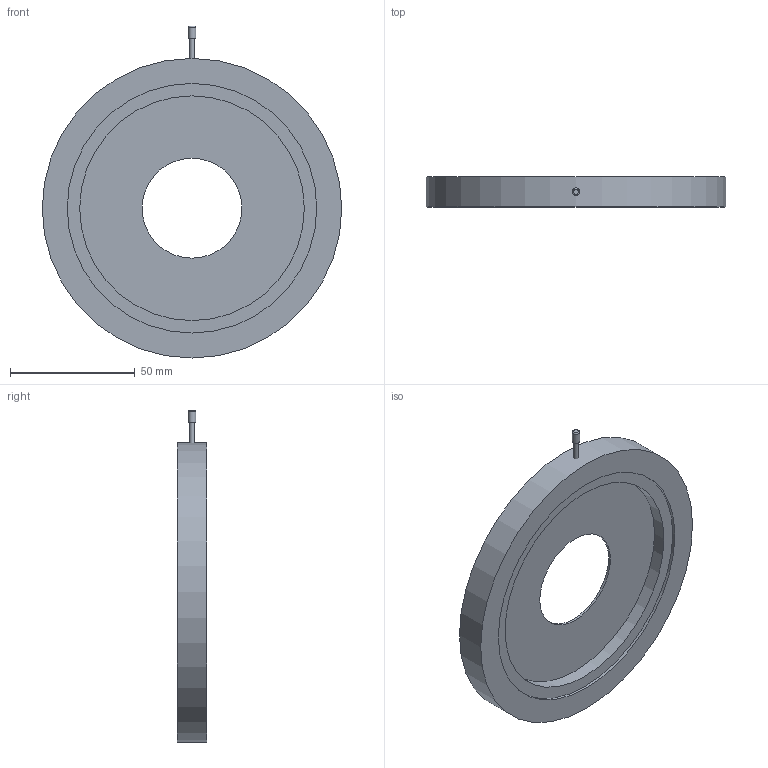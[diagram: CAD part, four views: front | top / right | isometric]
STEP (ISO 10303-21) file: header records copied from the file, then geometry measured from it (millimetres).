
FILE_DESCRIPTION(('Bauteilbeschreibung','HiCAD-Model','HiCAD-STEP-TRANSLATION','Bauteilbeschreibung'),'2;1');
FILE_NAME('G:/PROJ526_CAD-INTERNET-DOKU/KAPITEL_R-AUFBAUMAT/STEP/550528_STEP.STP','2003-04-16T15:16:30+00:00',('Konstrukteur'),('Konstrukteur Firma GmbH'),'HiCAD2 V1102 STEP 20.9.2001','HiCAD2 V1102','confidential');
FILE_SCHEMA(('AUTOMOTIVE_DESIGN { 1 2 10303 214 0 1 1 1 }'));
Length unit declared in the file: millimetre
Products named in the file (3): A0012699; A00126990; HEBEL
Assembly tree (2 placements, depth 2):
  A0012699
    A00126990
    HEBEL
Bounding box: 120 x 12 x 133 mm (x, y, z)
Volume: 62766.2 mm3; surface area: 28044.4 mm2
Topology: 2 solids, 2 shells, 16 faces, 27 edges, 19 vertices
Faces by surface type: plane 8, cylinder 7, torus 1
Full cylindrical faces by diameter (mm): 2 x1, 3 x1, 40 x1, 90 x2, 100 x1, 120 x1
Entity records: 597 total; most frequent: DIRECTION 70, CARTESIAN_POINT 50, AXIS2_PLACEMENT_3D 35, COLOUR_RGB 33, PRESENTATION_STYLE_ASSIGNMENT 33, OVER_RIDING_STYLED_ITEM 31, EDGE_LOOP 30, ORIENTED_EDGE 30
